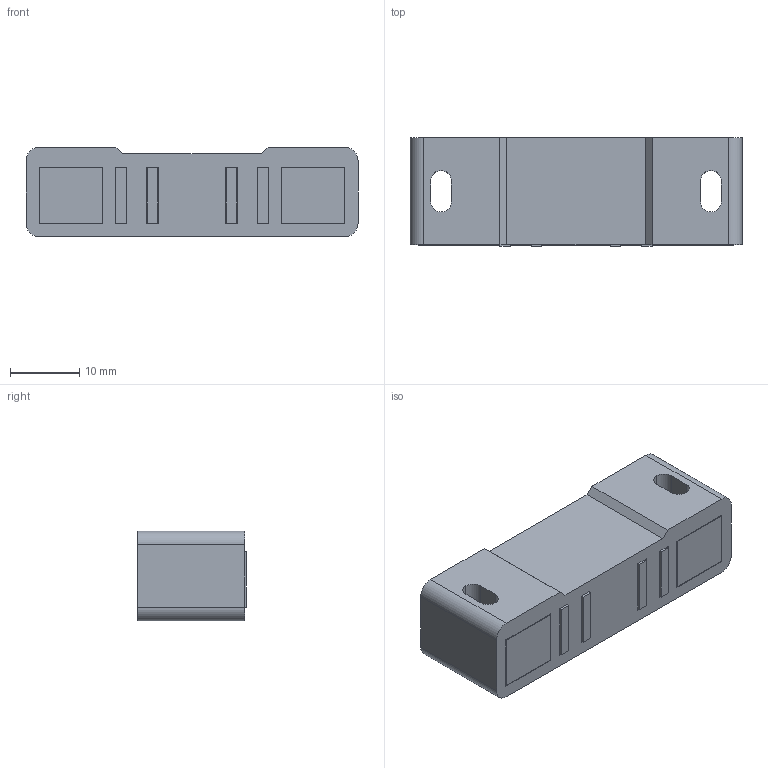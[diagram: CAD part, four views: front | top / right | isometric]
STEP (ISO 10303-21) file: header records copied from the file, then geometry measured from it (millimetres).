
FILE_DESCRIPTION((''),'2;1');
FILE_NAME('6470.01.stp','2023-10-12T12:07:27',(''),(''),'Mechanical Desktop 2006','Mechanical Desktop 2006',', , ');
FILE_SCHEMA(('CONFIG_CONTROL_DESIGN'));
Length unit declared in the file: millimetre
Products named in the file (2): 6470.01; 1
Assembly tree (1 placements, depth 2):
  6470.01
    1
Bounding box: 48 x 15.7 x 13 mm (x, y, z)
Volume: 8863.1 mm3; surface area: 3840.9 mm2
Topology: 1 solids, 1 shells, 86 faces, 216 edges, 144 vertices
Faces by surface type: plane 74, cylinder 12
Entity records: 2703 total; most frequent: CARTESIAN_POINT 449, ORIENTED_EDGE 432, DIRECTION 418, EDGE_CURVE 216, VECTOR 192, LINE 192, VERTEX_POINT 144, AXIS2_PLACEMENT_3D 113
